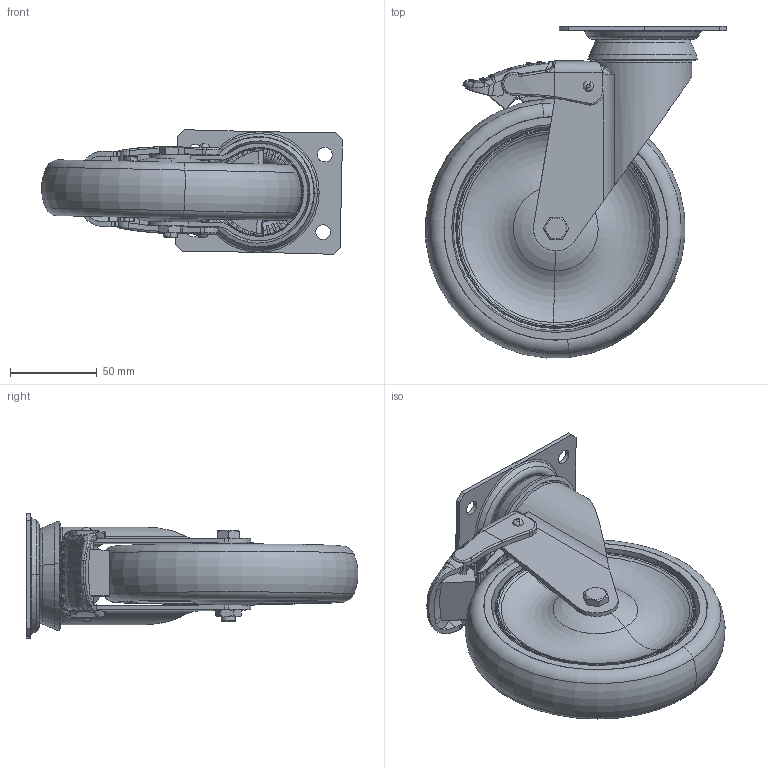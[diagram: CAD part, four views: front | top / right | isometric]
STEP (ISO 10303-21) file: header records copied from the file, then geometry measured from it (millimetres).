
FILE_DESCRIPTION (( 'STEP AP203' ), '1' );
FILE_NAME ('300905_STEP.STEP', '2012-03-06T07:33:16', ( '' ), ( '' ), 'SwSTEP 2.0', 'SolidWorks 2011', '' );
FILE_SCHEMA (( 'CONFIG_CONTROL_DESIGN' ));
Length unit declared in the file: millimetre
Products named in the file (1): 300905_STEP
Bounding box: 173.43 x 191.31 x 71.81 mm (x, y, z)
Surface area: 168456.1 mm2 (no closed solid volume)
Topology: 0 solids, 22 shells, 751 faces, 2901 edges, 2103 vertices
Faces by surface type: bspline 305, plane 235, cylinder 102, cone 55, torus 50, sphere 4
Entity records: 55470 total; most frequent: CARTESIAN_POINT 35759, ORIENTED_EDGE 4427, EDGE_CURVE 2896, DIRECTION 2635, VERTEX_POINT 2103, B_SPLINE_CURVE_WITH_KNOTS 1502, AXIS2_PLACEMENT_3D 893, VECTOR 849
